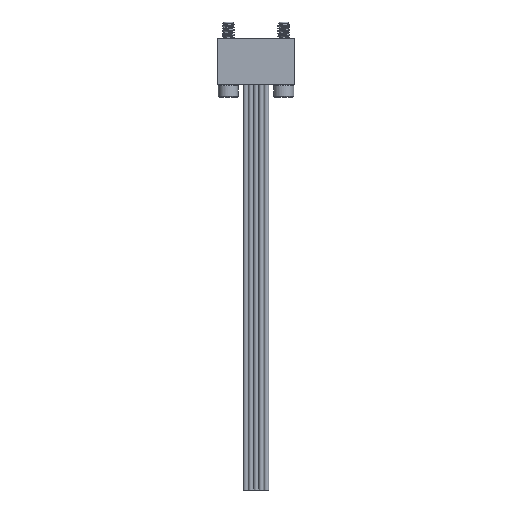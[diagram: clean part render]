
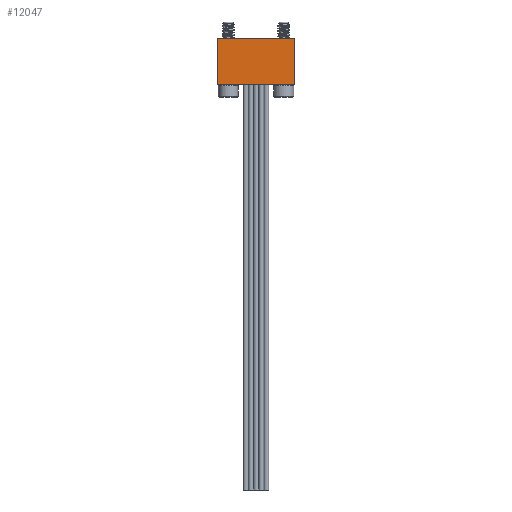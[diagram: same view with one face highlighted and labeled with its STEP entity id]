
A CAD part, front view. The second image highlights one B-rep face of the part: STEP entity #12047.
In plain terms, the highlighted planar face has unit normal (0, -1, 0).
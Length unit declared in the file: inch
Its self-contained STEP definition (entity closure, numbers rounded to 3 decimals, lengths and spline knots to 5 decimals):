
#1284 = CARTESIAN_POINT ( 'NONE',  ( -0.1875, -0.0575, -0.225 ) ) ;
#1387 = ORIENTED_EDGE ( 'NONE', *, *, #9324, .T. ) ;
#2059 = LINE ( 'NONE', #4461, #18702 ) ;
#3918 = EDGE_CURVE ( 'NONE', #7023, #16745, #16619, .T. ) ;
#4461 = CARTESIAN_POINT ( 'NONE',  ( -0.1875, -0.0575, -0.225 ) ) ;
#5470 = DIRECTION ( 'NONE',  ( 1., 0., 0. ) ) ;
#5974 = VERTEX_POINT ( 'NONE', #14985 ) ;
#6083 = DIRECTION ( 'NONE',  ( 1., 0., 0. ) ) ;
#6446 = VECTOR ( 'NONE', #11389, 39.37008 ) ;
#7023 = VERTEX_POINT ( 'NONE', #1284 ) ;
#7193 = ORIENTED_EDGE ( 'NONE', *, *, #19956, .T. ) ;
#7895 = CARTESIAN_POINT ( 'NONE',  ( 0.1875, -0.0575, -0.225 ) ) ;
#8066 = CARTESIAN_POINT ( 'NONE',  ( -0.1875, -0.0575, 0. ) ) ;
#9324 = EDGE_CURVE ( 'NONE', #5974, #16250, #11148, .T. ) ;
#9568 = ORIENTED_EDGE ( 'NONE', *, *, #14577, .F. ) ;
#10119 = VECTOR ( 'NONE', #17561, 39.37008 ) ;
#10719 = LINE ( 'NONE', #8066, #6446 ) ;
#10924 = ORIENTED_EDGE ( 'NONE', *, *, #3918, .F. ) ;
#11148 = LINE ( 'NONE', #7895, #10119 ) ;
#11389 = DIRECTION ( 'NONE',  ( 1., 0., 0. ) ) ;
#11859 = PLANE ( 'NONE',  #20043 ) ;
#12047 = ADVANCED_FACE ( 'NONE', ( #14564 ), #11859, .T. ) ;
#13425 = DIRECTION ( 'NONE',  ( 0., -1., 0. ) ) ;
#13490 = CARTESIAN_POINT ( 'NONE',  ( -0.1875, -0.0575, -0.225 ) ) ;
#14564 = FACE_OUTER_BOUND ( 'NONE', #19479, .T. ) ;
#14577 = EDGE_CURVE ( 'NONE', #16745, #16250, #10719, .T. ) ;
#14985 = CARTESIAN_POINT ( 'NONE',  ( 0.1875, -0.0575, -0.225 ) ) ;
#15426 = CARTESIAN_POINT ( 'NONE',  ( -0.1875, -0.0575, 0. ) ) ;
#16113 = VECTOR ( 'NONE', #16590, 39.37008 ) ;
#16250 = VERTEX_POINT ( 'NONE', #18761 ) ;
#16590 = DIRECTION ( 'NONE',  ( 0., 0., 1. ) ) ;
#16619 = LINE ( 'NONE', #19799, #16113 ) ;
#16745 = VERTEX_POINT ( 'NONE', #15426 ) ;
#17561 = DIRECTION ( 'NONE',  ( 0., 0., 1. ) ) ;
#18702 = VECTOR ( 'NONE', #6083, 39.37008 ) ;
#18761 = CARTESIAN_POINT ( 'NONE',  ( 0.1875, -0.0575, 0. ) ) ;
#19479 = EDGE_LOOP ( 'NONE', ( #9568, #10924, #7193, #1387 ) ) ;
#19799 = CARTESIAN_POINT ( 'NONE',  ( -0.1875, -0.0575, -0.225 ) ) ;
#19956 = EDGE_CURVE ( 'NONE', #7023, #5974, #2059, .T. ) ;
#20043 = AXIS2_PLACEMENT_3D ( 'NONE', #13490, #13425, #5470 ) ;
